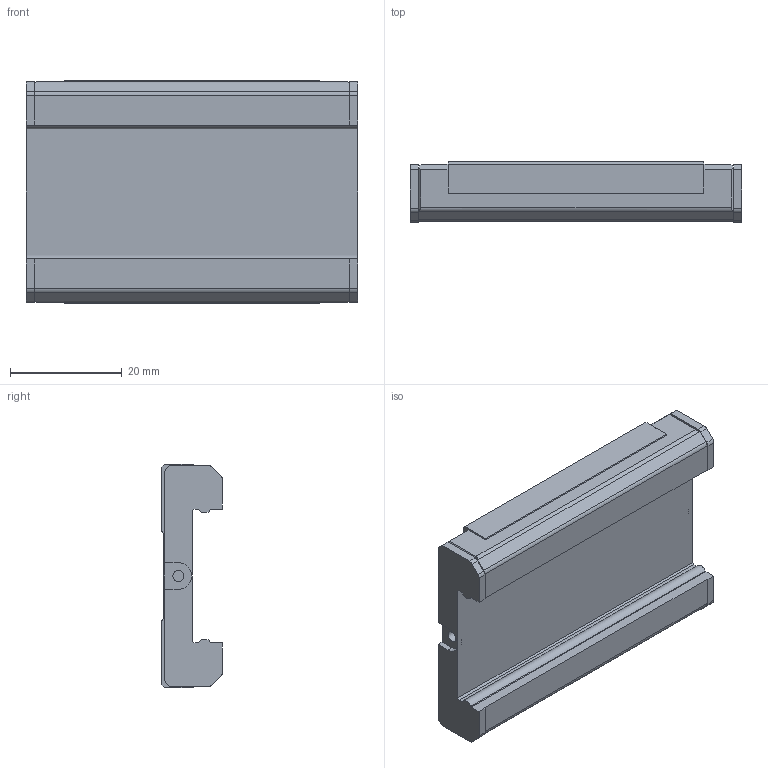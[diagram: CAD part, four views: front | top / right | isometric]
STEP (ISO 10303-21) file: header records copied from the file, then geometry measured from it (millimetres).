
FILE_DESCRIPTION(/* description */ ('STEP AP214'),/* implementation_level */ '2;1');
FILE_NAME(/* name */ 'SRS12WNUU(GK) BLOCK(1)',/* time_stamp */ '2023-06-01T09:54:24+02:00',/* author */ ('License CC BY-ND 4.0'),/* organization */ ('CADENAS'),/* preprocessor_version */ 'ST-DEVELOPER v19.3',/* originating_system */ 'PARTsolutions',/* authorisation */ ' ');
FILE_SCHEMA (('TECHNICAL_DATA_PACKAGING','AUTOMOTIVE_DESIGN {1 0 10303 214 3 1 1}'));
Length unit declared in the file: millimetre
Products named in the file (2): SRS12WNUU(GK) BLOCK(1); SRS12WNUU1 S
Assembly tree (1 placements, depth 2):
  SRS12WNUU(GK) BLOCK(1)
    SRS12WNUU1 S
Bounding box: 59.5 x 10.9 x 40 mm (x, y, z)
Volume: 17107.8 mm3; surface area: 7319.3 mm2
Topology: 1 solids, 1 shells, 102 faces, 290 edges, 192 vertices
Faces by surface type: plane 66, cylinder 28, cone 8
Full cylindrical faces by diameter (mm): 2 x2, 2.459 x4
Entity records: 3225 total; most frequent: CARTESIAN_POINT 560, ORIENTED_EDGE 536, DIRECTION 536, EDGE_CURVE 268, LINE 208, VECTOR 208, VERTEX_POINT 188, AXIS2_PLACEMENT_3D 164
